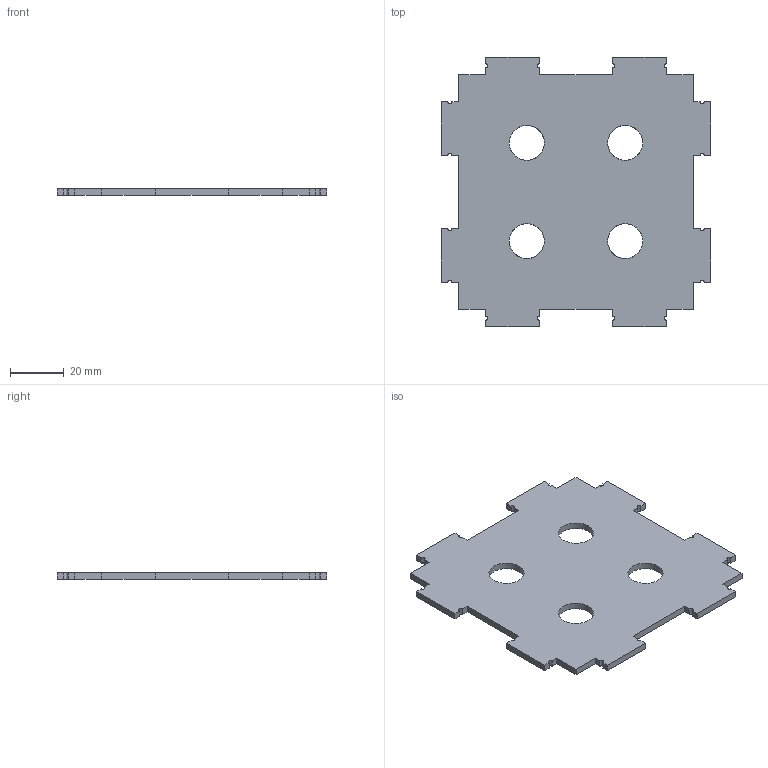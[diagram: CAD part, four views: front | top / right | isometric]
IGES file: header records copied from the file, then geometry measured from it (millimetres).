
Global section: file name: 4.Lateral izquierda; native system: Autodesk Inventor 2022; preprocessor: unknown; author: pined; date: 20220531.022257; units: millimetre
Bounding box: 100 x 100 x 2.5 mm (x, y, z)
Volume: 20155.1 mm3; surface area: 17699.2 mm2
Topology: 1 solids, 1 shells, 74 faces, 224 edges, 153 vertices
Faces by surface type: bspline 74
